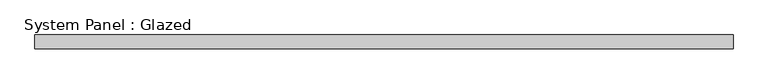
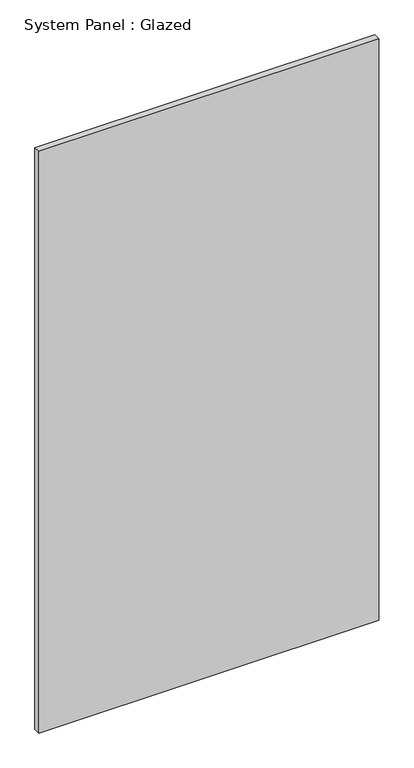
"""IFC4 building model written with IfcOpenShell, lengths in millimetres: plate geometry, System Panel : Glazed."""

from ifc_helpers import new_model, si_unit, origin, origin_with_axes, place, context, project, spatial, polyline, outline, extrude, source, transform, mapped, element, save


def system_panel_glazed_40b67b39(model_context):
    return source(origin(), model_context, "Body", "SweptSolid", [
        extrude(outline(polyline([(647.8295455, 19.05), (-647.8295455, 19.05), (-647.8295455, 44.45), (647.8295455, 44.45), (647.8295455, 19.05)])), origin_with_axes(), (0.0, 0.0, 1.0), 2343.15),
    ])


if __name__ == "__main__":
    model = new_model("IFC4")
    model_context = context("Model", 3, world=origin())
    ifc_project = project(units=[si_unit("LENGTHUNIT", "METRE", prefix="MILLI")], contexts=[model_context])
    site = spatial("IfcSite", under=ifc_project)
    building = spatial("IfcBuilding", under=site)
    placement = place(None, origin())
    system_panel_glazed_shape = system_panel_glazed_40b67b39(model_context)
    element("IfcPlate", 1, ObjectType="System Panel : Glazed", at=placement, inside=building, context=model_context, shape_type="MappedRepresentation", body=[
        mapped(system_panel_glazed_shape, transform((0.0, 0.0, 0.0), x_axis=(1.0, 0.0, 0.0), y_axis=(0.0, 1.0, 0.0), z_axis=(0.0, 0.0, 1.0))),
    ])
    save(model, "model.ifc")
